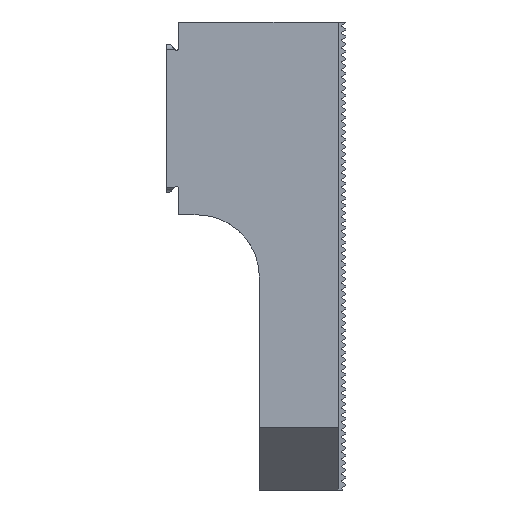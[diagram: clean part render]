
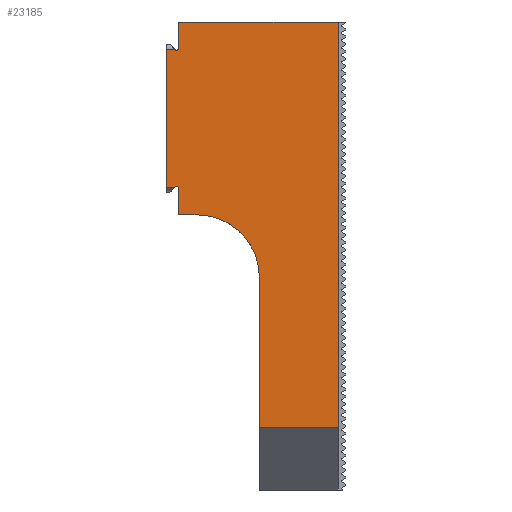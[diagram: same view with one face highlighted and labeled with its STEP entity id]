
A CAD part, left-side view. The second image highlights one B-rep face of the part: STEP entity #23185.
In plain terms, the highlighted planar face has unit normal (-1, 0, 0).
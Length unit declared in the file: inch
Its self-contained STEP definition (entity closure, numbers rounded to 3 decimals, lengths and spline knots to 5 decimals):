
#52 = VERTEX_POINT ( 'NONE', #14300 ) ;
#385 = CARTESIAN_POINT ( 'NONE',  ( -4., -0.13567, -0.05 ) ) ;
#526 = EDGE_CURVE ( 'NONE', #13932, #25144, #7286, .T. ) ;
#567 = CARTESIAN_POINT ( 'NONE',  ( -4., -0.13567, -7.5025 ) ) ;
#625 = CARTESIAN_POINT ( 'NONE',  ( -4., 1., -2.1 ) ) ;
#770 = VECTOR ( 'NONE', #22086, 39.37008 ) ;
#876 = LINE ( 'NONE', #9426, #7672 ) ;
#1009 = DIRECTION ( 'NONE',  ( 0., 0., 1. ) ) ;
#1531 = EDGE_CURVE ( 'NONE', #22908, #14233, #7888, .T. ) ;
#1622 = ORIENTED_EDGE ( 'NONE', *, *, #526, .F. ) ;
#1637 = LINE ( 'NONE', #10785, #18832 ) ;
#2009 = CARTESIAN_POINT ( 'NONE',  ( -4., -0.13567, -3.3122 ) ) ;
#2038 = DIRECTION ( 'NONE',  ( 0., 0., 1. ) ) ;
#2446 = DIRECTION ( 'NONE',  ( 0., -1., 0. ) ) ;
#2646 = CARTESIAN_POINT ( 'NONE',  ( -4., 0.5, -2.1 ) ) ;
#2876 = VERTEX_POINT ( 'NONE', #22225 ) ;
#2909 = ORIENTED_EDGE ( 'NONE', *, *, #12783, .F. ) ;
#2948 = CIRCLE ( 'NONE', #5800, 0.015 ) ;
#3346 = VERTEX_POINT ( 'NONE', #4718 ) ;
#3458 = CARTESIAN_POINT ( 'NONE',  ( -4., 1., -1.6 ) ) ;
#3623 = DIRECTION ( 'NONE',  ( 0., 0., 1. ) ) ;
#3717 = DIRECTION ( 'NONE',  ( 0., -0.707, -0.707 ) ) ;
#3976 = LINE ( 'NONE', #27088, #24880 ) ;
#3987 = CARTESIAN_POINT ( 'NONE',  ( -4., 1.15, -0.05 ) ) ;
#4263 = VERTEX_POINT ( 'NONE', #28767 ) ;
#4373 = EDGE_CURVE ( 'NONE', #20104, #9950, #15435, .T. ) ;
#4683 = CARTESIAN_POINT ( 'NONE',  ( -4., 0.97322, -1.3825 ) ) ;
#4718 = CARTESIAN_POINT ( 'NONE',  ( -4., 1.25, -0.2675 ) ) ;
#4896 = VERTEX_POINT ( 'NONE', #3458 ) ;
#5341 = LINE ( 'NONE', #18600, #20009 ) ;
#5431 = ORIENTED_EDGE ( 'NONE', *, *, #1531, .T. ) ;
#5536 = CARTESIAN_POINT ( 'NONE',  ( -4., 1.1825, -0.2675 ) ) ;
#5705 = VECTOR ( 'NONE', #3717, 39.37008 ) ;
#5800 = AXIS2_PLACEMENT_3D ( 'NONE', #12739, #8359, #5812 ) ;
#5812 = DIRECTION ( 'NONE',  ( 0., 0., 1. ) ) ;
#5864 = CARTESIAN_POINT ( 'NONE',  ( -4., 1.165, -0.26379 ) ) ;
#5910 = VERTEX_POINT ( 'NONE', #5536 ) ;
#6120 = LINE ( 'NONE', #10472, #770 ) ;
#6423 = EDGE_CURVE ( 'NONE', #21440, #19208, #6120, .T. ) ;
#6482 = ORIENTED_EDGE ( 'NONE', *, *, #24756, .F. ) ;
#6491 = CARTESIAN_POINT ( 'NONE',  ( -4., 1.25, -1.3825 ) ) ;
#6766 = EDGE_CURVE ( 'NONE', #4896, #12939, #5341, .T. ) ;
#7136 = CARTESIAN_POINT ( 'NONE',  ( -4., 1.165, -1.37121 ) ) ;
#7286 = LINE ( 'NONE', #19181, #20975 ) ;
#7672 = VECTOR ( 'NONE', #27908, 39.37008 ) ;
#7888 = LINE ( 'NONE', #567, #15661 ) ;
#7940 = LINE ( 'NONE', #15341, #24486 ) ;
#8212 = LINE ( 'NONE', #14859, #5705 ) ;
#8359 = DIRECTION ( 'NONE',  ( -1., 0., 0. ) ) ;
#8597 = DIRECTION ( 'NONE',  ( 0., 1., 0. ) ) ;
#9149 = CARTESIAN_POINT ( 'NONE',  ( -4., 1.15, -0.05 ) ) ;
#9426 = CARTESIAN_POINT ( 'NONE',  ( -4., 0.97322, -0.2675 ) ) ;
#9950 = VERTEX_POINT ( 'NONE', #9149 ) ;
#10187 = EDGE_CURVE ( 'NONE', #52, #2876, #2948, .T. ) ;
#10472 = CARTESIAN_POINT ( 'NONE',  ( -4., 0.5, -3.8122 ) ) ;
#10785 = CARTESIAN_POINT ( 'NONE',  ( -4., 1.15, -1.38621 ) ) ;
#11328 = VERTEX_POINT ( 'NONE', #18792 ) ;
#11758 = ORIENTED_EDGE ( 'NONE', *, *, #26298, .F. ) ;
#12678 = VECTOR ( 'NONE', #2038, 39.37008 ) ;
#12734 = EDGE_CURVE ( 'NONE', #21440, #22908, #25810, .T. ) ;
#12739 = CARTESIAN_POINT ( 'NONE',  ( -4., 1.165, -0.26379 ) ) ;
#12783 = EDGE_CURVE ( 'NONE', #5910, #52, #8212, .T. ) ;
#12939 = VERTEX_POINT ( 'NONE', #15901 ) ;
#13042 = VERTEX_POINT ( 'NONE', #7136 ) ;
#13208 = CARTESIAN_POINT ( 'NONE',  ( -4., 0., -0.05 ) ) ;
#13237 = VECTOR ( 'NONE', #8597, 39.37008 ) ;
#13888 = EDGE_CURVE ( 'NONE', #2876, #20104, #876, .T. ) ;
#13932 = VERTEX_POINT ( 'NONE', #22072 ) ;
#14028 = DIRECTION ( 'NONE',  ( 0., 0., 1. ) ) ;
#14233 = VERTEX_POINT ( 'NONE', #385 ) ;
#14300 = CARTESIAN_POINT ( 'NONE',  ( -4., 1.17561, -0.27439 ) ) ;
#14315 = DIRECTION ( 'NONE',  ( 1., 0., 0. ) ) ;
#14364 = EDGE_CURVE ( 'NONE', #11328, #13042, #14458, .T. ) ;
#14458 = CIRCLE ( 'NONE', #18297, 0.015 ) ;
#14500 = EDGE_CURVE ( 'NONE', #26871, #3346, #3976, .T. ) ;
#14543 = DIRECTION ( 'NONE',  ( 0., 1., 0. ) ) ;
#14560 = DIRECTION ( 'NONE',  ( 0., -1., 0. ) ) ;
#14594 = ORIENTED_EDGE ( 'NONE', *, *, #24088, .F. ) ;
#14690 = DIRECTION ( 'NONE',  ( 0., 0., 1. ) ) ;
#14793 = ORIENTED_EDGE ( 'NONE', *, *, #14500, .F. ) ;
#14859 = CARTESIAN_POINT ( 'NONE',  ( -4., 1.17561, -0.27439 ) ) ;
#14974 = VECTOR ( 'NONE', #2446, 39.37008 ) ;
#15051 = DIRECTION ( 'NONE',  ( 0., 1., 0. ) ) ;
#15113 = ORIENTED_EDGE ( 'NONE', *, *, #4373, .F. ) ;
#15269 = CARTESIAN_POINT ( 'NONE',  ( -4., 1.165, -1.38621 ) ) ;
#15341 = CARTESIAN_POINT ( 'NONE',  ( -4., 0.97322, -1.3825 ) ) ;
#15435 = LINE ( 'NONE', #3987, #12678 ) ;
#15661 = VECTOR ( 'NONE', #14690, 39.37008 ) ;
#15855 = ORIENTED_EDGE ( 'NONE', *, *, #6766, .F. ) ;
#15901 = CARTESIAN_POINT ( 'NONE',  ( -4., 1.15, -1.6 ) ) ;
#15996 = LINE ( 'NONE', #16437, #14974 ) ;
#16283 = EDGE_CURVE ( 'NONE', #9950, #14233, #20734, .T. ) ;
#16437 = CARTESIAN_POINT ( 'NONE',  ( -4., 0.97322, -0.2675 ) ) ;
#16471 = ORIENTED_EDGE ( 'NONE', *, *, #14364, .F. ) ;
#16829 = AXIS2_PLACEMENT_3D ( 'NONE', #5864, #24218, #3623 ) ;
#16988 = ORIENTED_EDGE ( 'NONE', *, *, #12734, .T. ) ;
#17330 = EDGE_CURVE ( 'NONE', #25144, #26871, #7940, .T. ) ;
#18297 = AXIS2_PLACEMENT_3D ( 'NONE', #15269, #26064, #24274 ) ;
#18600 = CARTESIAN_POINT ( 'NONE',  ( -4., 1.15, -1.6 ) ) ;
#18666 = ORIENTED_EDGE ( 'NONE', *, *, #18904, .F. ) ;
#18792 = CARTESIAN_POINT ( 'NONE',  ( -4., 1.15047, -1.3825 ) ) ;
#18832 = VECTOR ( 'NONE', #24039, 39.37008 ) ;
#18904 = EDGE_CURVE ( 'NONE', #4263, #11328, #25280, .T. ) ;
#18978 = EDGE_CURVE ( 'NONE', #4896, #19208, #20918, .T. ) ;
#19181 = CARTESIAN_POINT ( 'NONE',  ( -4., 1.25, -1.45 ) ) ;
#19208 = VERTEX_POINT ( 'NONE', #2646 ) ;
#19844 = ORIENTED_EDGE ( 'NONE', *, *, #16283, .F. ) ;
#20009 = VECTOR ( 'NONE', #14543, 39.37008 ) ;
#20104 = VERTEX_POINT ( 'NONE', #26579 ) ;
#20287 = FACE_OUTER_BOUND ( 'NONE', #22104, .T. ) ;
#20734 = LINE ( 'NONE', #13208, #21163 ) ;
#20918 = CIRCLE ( 'NONE', #29543, 0.5 ) ;
#20975 = VECTOR ( 'NONE', #23381, 39.37008 ) ;
#21096 = VECTOR ( 'NONE', #14560, 39.37008 ) ;
#21163 = VECTOR ( 'NONE', #24636, 39.37008 ) ;
#21440 = VERTEX_POINT ( 'NONE', #23916 ) ;
#21505 = CIRCLE ( 'NONE', #27224, 0.015 ) ;
#21606 = CARTESIAN_POINT ( 'NONE',  ( -4., 1.165, -1.38621 ) ) ;
#22051 = CARTESIAN_POINT ( 'NONE',  ( -4., 1.1825, -1.3825 ) ) ;
#22072 = CARTESIAN_POINT ( 'NONE',  ( -4., 1.17561, -1.37561 ) ) ;
#22086 = DIRECTION ( 'NONE',  ( 0., 0., 1. ) ) ;
#22104 = EDGE_LOOP ( 'NONE', ( #24388, #16988, #5431, #19844, #15113, #23057, #29016, #2909, #14594, #14793, #28552, #1622, #11758, #16471, #18666, #6482, #15855, #29194 ) ) ;
#22225 = CARTESIAN_POINT ( 'NONE',  ( -4., 1.15047, -0.2675 ) ) ;
#22633 = DIRECTION ( 'NONE',  ( 0., 0., 1. ) ) ;
#22908 = VERTEX_POINT ( 'NONE', #2009 ) ;
#23057 = ORIENTED_EDGE ( 'NONE', *, *, #13888, .F. ) ;
#23185 = ADVANCED_FACE ( 'NONE', ( #20287 ), #26458, .T. ) ;
#23381 = DIRECTION ( 'NONE',  ( 0., 0.707, -0.707 ) ) ;
#23916 = CARTESIAN_POINT ( 'NONE',  ( -4., 0.5, -3.3122 ) ) ;
#24039 = DIRECTION ( 'NONE',  ( 0., 0., 1. ) ) ;
#24088 = EDGE_CURVE ( 'NONE', #3346, #5910, #15996, .T. ) ;
#24218 = DIRECTION ( 'NONE',  ( -1., 0., 0. ) ) ;
#24274 = DIRECTION ( 'NONE',  ( 0., 0., 1. ) ) ;
#24388 = ORIENTED_EDGE ( 'NONE', *, *, #6423, .F. ) ;
#24486 = VECTOR ( 'NONE', #15051, 39.37008 ) ;
#24636 = DIRECTION ( 'NONE',  ( 0., -1., 0. ) ) ;
#24756 = EDGE_CURVE ( 'NONE', #12939, #4263, #1637, .T. ) ;
#24880 = VECTOR ( 'NONE', #22633, 39.37008 ) ;
#25144 = VERTEX_POINT ( 'NONE', #22051 ) ;
#25280 = LINE ( 'NONE', #4683, #13237 ) ;
#25528 = CARTESIAN_POINT ( 'NONE',  ( -4., -0.13567, -3.3122 ) ) ;
#25810 = LINE ( 'NONE', #25528, #21096 ) ;
#26064 = DIRECTION ( 'NONE',  ( -1., 0., 0. ) ) ;
#26298 = EDGE_CURVE ( 'NONE', #13042, #13932, #21505, .T. ) ;
#26458 = PLANE ( 'NONE',  #16829 ) ;
#26528 = DIRECTION ( 'NONE',  ( -1., 0., 0. ) ) ;
#26579 = CARTESIAN_POINT ( 'NONE',  ( -4., 1.15, -0.2675 ) ) ;
#26871 = VERTEX_POINT ( 'NONE', #6491 ) ;
#27088 = CARTESIAN_POINT ( 'NONE',  ( -4., 1.25, -0.2 ) ) ;
#27224 = AXIS2_PLACEMENT_3D ( 'NONE', #21606, #26528, #1009 ) ;
#27908 = DIRECTION ( 'NONE',  ( 0., -1., 0. ) ) ;
#28552 = ORIENTED_EDGE ( 'NONE', *, *, #17330, .F. ) ;
#28767 = CARTESIAN_POINT ( 'NONE',  ( -4., 1.15, -1.3825 ) ) ;
#29016 = ORIENTED_EDGE ( 'NONE', *, *, #10187, .F. ) ;
#29194 = ORIENTED_EDGE ( 'NONE', *, *, #18978, .T. ) ;
#29543 = AXIS2_PLACEMENT_3D ( 'NONE', #625, #14315, #14028 ) ;
